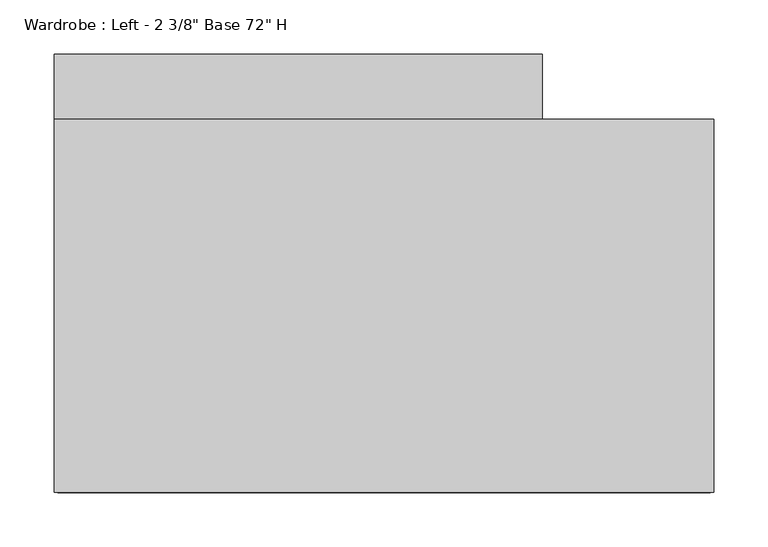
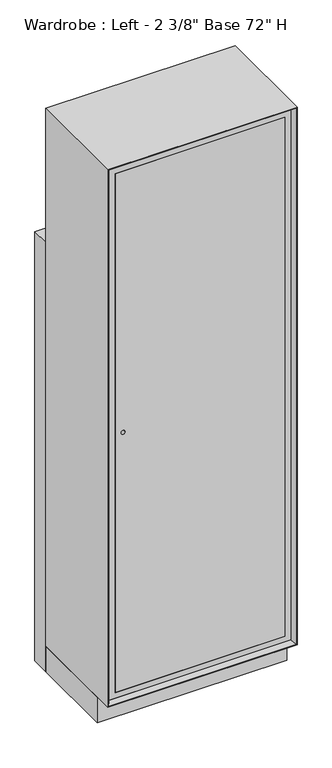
"""IFC4 building model written with IfcOpenShell, lengths in millimetres: furniture geometry."""

from ifc_helpers import new_model, si_unit, point, frame, frame_2d, origin, origin_with_axes, place, context, project, spatial, polyline, circle_curve, trimmed, segment, composite_curve, outline, extrude, faceted_brep, source, transform, mapped, element, save


def furniture_07fac1e9(model_context):
    return source(origin(), model_context, "Body", "SolidModel", [
        extrude(outline(polyline([(1903.4125, 292.1), (1903.4125, -292.1), (100.0125, -292.1), (100.0125, 292.1), (1903.4125, 292.1)]), holes=[polyline([(1884.3625, -273.05), (1884.3625, 273.05), (119.0625, 273.05), (119.0625, -273.05), (1884.3625, -273.05)])]), frame((0.0, -392.1125, 0.0), z_axis=(0.0, 1.0, 0.0), x_axis=(0.0, 0.0, 1.0)), (0.0, 0.0, 1.0), 331.7875),
        extrude(outline(polyline([(273.05, -60.325), (273.05, -79.375), (-273.05, -79.375), (-273.05, -60.325), (273.05, -60.325)])), frame((0.0, 0.0, 119.0625), z_axis=(0.0, 0.0, 1.0), x_axis=(1.0, 0.0, 0.0)), (0.0, 0.0, 1.0), 1765.3),
        extrude(outline(polyline([(1884.3625, 273.05), (1884.3625, -273.05), (119.0625, -273.05), (119.0625, 273.05), (1884.3625, 273.05)]), holes=[composite_curve([segment(trimmed(circle_curve(frame_2d((995.3625, -247.65)), 6.35), [point((995.3625, -254.0))], [point((995.3625, -241.3))], True, "CARTESIAN"), True, "CONTINUOUS"), segment(trimmed(circle_curve(frame_2d((995.3625, -247.65)), 6.35), [point((995.3625, -241.3))], [point((995.3625, -254.0))], True, "CARTESIAN"), True, "CONTINUOUS")], self_intersect=False)]), frame((0.0, -392.1125, 0.0), z_axis=(0.0, 1.0, 0.0), x_axis=(0.0, 0.0, 1.0)), (0.0, 0.0, 1.0), 19.05),
        faceted_brep([(292.1, -392.1125, 1903.4125), (292.1, -60.325, 1903.4125), (292.1, -60.325, 100.0125), (292.1, -392.1125, 100.0125), (301.625, -404.8125, 1912.9375), (301.625, -404.8125, 90.4875), (304.8, -60.325, 1916.1125), (304.8, -404.8125, 1916.1125), (304.8, -404.8125, 87.3125), (304.8, -60.325, 87.3125), (-292.1, -60.325, 100.0125), (-292.1, -392.1125, 100.0125), (-301.625, -404.8125, 90.4875), (-304.8, -404.8125, 87.3125), (-304.8, -60.325, 87.3125), (-292.1, -60.325, 1903.4125), (-292.1, -392.1125, 1903.4125), (-301.625, -404.8125, 1912.9375), (-304.8, -404.8125, 1916.1125), (-304.8, -60.325, 1916.1125)], [[[0, 1, 2, 3]], [[4, 0, 3, 5]], [[6, 7, 8, 9]], [[3, 2, 10, 11]], [[5, 3, 11, 12]], [[9, 8, 13, 14]], [[11, 10, 15, 16]], [[12, 11, 16, 17]], [[14, 13, 18, 19]], [[9, 14, 19, 6], [1, 15, 10, 2]], [[16, 15, 1, 0]], [[17, 16, 0, 4]], [[7, 18, 13, 8], [5, 12, 17, 4]], [[19, 18, 7, 6]]]),
        extrude(outline(polyline([(-304.8, 0.0), (146.2, 0.0), (146.2, -60.325), (-304.8, -60.325), (-304.8, 0.0)])), origin_with_axes(), (0.0, 0.0, 1.0), 1460.5),
        extrude(outline(polyline([(304.8, -60.325), (304.8, -347.6625), (-304.8, -347.6625), (-304.8, -60.325), (304.8, -60.325)])), origin_with_axes(), (0.0, 0.0, 1.0), 87.3125),
    ])


if __name__ == "__main__":
    model = new_model("IFC4")
    model_context = context("Model", 3, world=origin())
    ifc_project = project(units=[si_unit("LENGTHUNIT", "METRE", prefix="MILLI")], contexts=[model_context])
    site = spatial("IfcSite", under=ifc_project)
    building = spatial("IfcBuilding", under=site)
    placement = place(None, origin())
    furniture_shape = furniture_07fac1e9(model_context)
    element("IfcFurniture", 1, ObjectType="Wardrobe : Left - 2 3/8\" Base 72\" H", at=placement, inside=building, context=model_context, shape_type="MappedRepresentation", body=[
        mapped(furniture_shape, transform((0.0, 0.0, 0.0), x_axis=(1.0, 0.0, 0.0), y_axis=(0.0, 1.0, 0.0), z_axis=(0.0, 0.0, 1.0))),
    ])
    save(model, "model.ifc")
